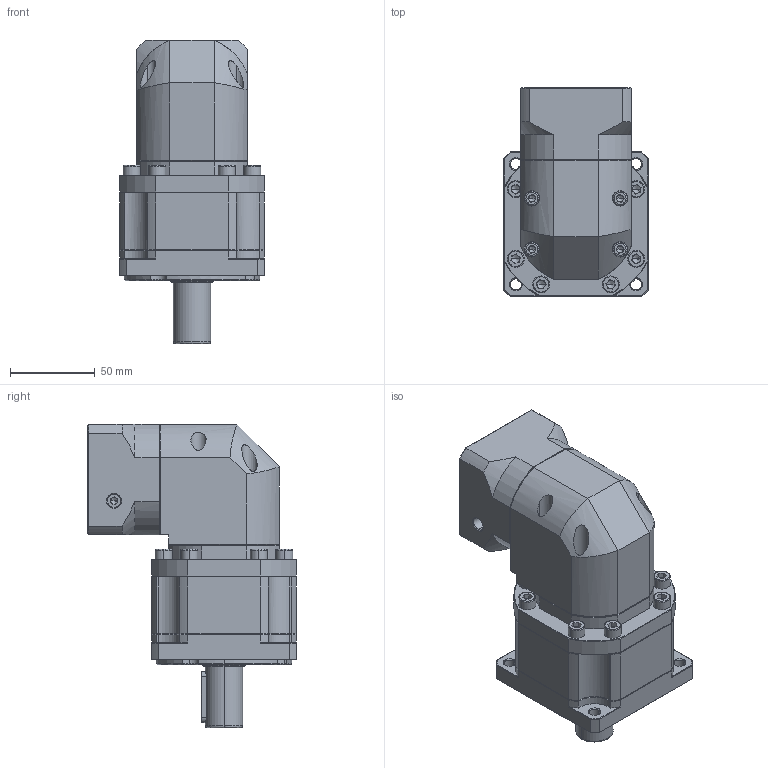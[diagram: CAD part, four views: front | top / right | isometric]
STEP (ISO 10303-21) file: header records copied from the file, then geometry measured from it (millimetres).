
FILE_DESCRIPTION (( 'STEP AP214' ), '1' );
FILE_NAME ('ZBR090-D22-L2-P2-11-60-75-M5.step', '2023-08-19T03:57:54', ( '' ), ( '' ), 'SwSTEP 2.0', 'SolidWorks 2016', '' );
FILE_SCHEMA (( 'AUTOMOTIVE_DESIGN' ));
Length unit declared in the file: millimetre
Products named in the file (1): ZBR090-D22-L2-P2-11-60-75-M5
Bounding box: 85 x 122.7 x 178.5 mm (x, y, z)
Volume: 817234.1 mm3; surface area: 101047.8 mm2
Topology: 5 solids, 5 shells, 2437 faces, 6454 edges, 4119 vertices
Faces by surface type: plane 1178, cylinder 445, bspline 438, cone 368, torus 8
Entity records: 129959 total; most frequent: CARTESIAN_POINT 46168, ORIENTED_EDGE 12816, DIRECTION 10267, EDGE_CURVE 6408, VERTEX_POINT 4119, LINE 4033, VECTOR 4033, AXIS2_PLACEMENT_3D 3117
